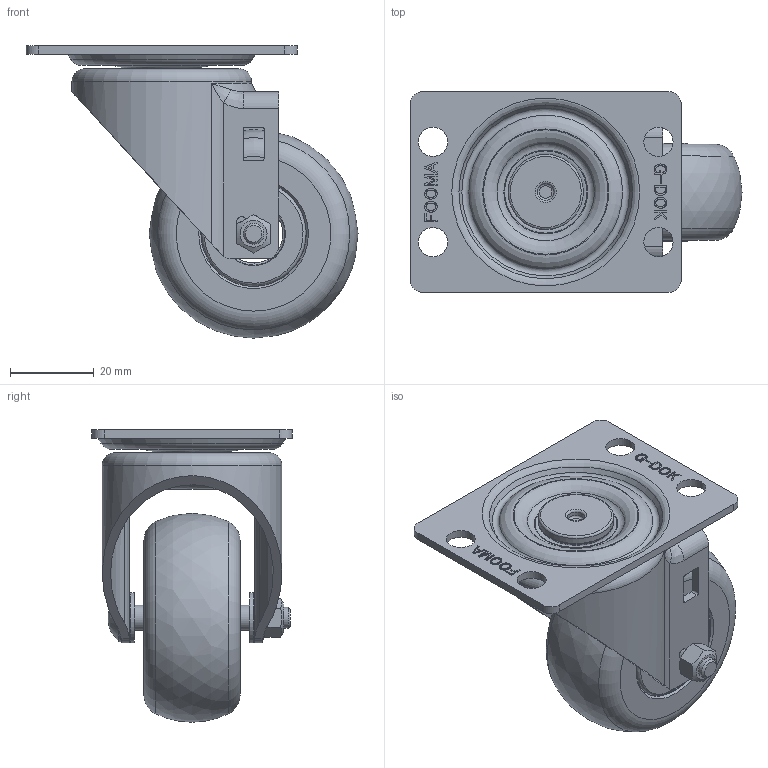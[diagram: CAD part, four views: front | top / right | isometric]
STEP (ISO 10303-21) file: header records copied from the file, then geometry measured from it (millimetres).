
FILE_DESCRIPTION(/* description */ (''),/* implementation_level */ '2;1');
FILE_NAME(/* name */ 'C:\Users\admin\Desktop\JYS\14.제품도면\GL-SERIES\GL-50-ASF-EUS-HP.stp',/* time_stamp */ '2024-01-11T14:34:05+09:00',/* author */ ('admin'),/* organization */ (''),/* preprocessor_version */ 'ST-DEVELOPER v18.1',/* originating_system */ 'Autodesk Inventor 2021',/* authorisation */ '');
FILE_SCHEMA (('AUTOMOTIVE_DESIGN { 1 0 10303 214 3 1 1 }'));
Length unit declared in the file: millimetre
Products named in the file (3): GL-50-ASF-EUS; GL-50-ASF-EUS_1; GDS-50_WHEEL_Sub Assy_Rev01
Assembly tree (2 placements, depth 2):
  GL-50-ASF-EUS
    GL-50-ASF-EUS_1
    GDS-50_WHEEL_Sub Assy_Rev01
Bounding box: 79.5 x 48 x 70 mm (x, y, z)
Volume: 57064.1 mm3; surface area: 30616.3 mm2
Topology: 3 solids, 4 shells, 427 faces, 1073 edges, 702 vertices
Faces by surface type: plane 191, bspline 114, torus 50, cylinder 49, cone 23
Full cylindrical faces by diameter (mm): 4 x1, 5 x1, 6 x1, 7 x5, 11 x1, 11.1 x1, 11.5 x1, 18 x1, 21.004 x1, 25 x2, 33.804 x1, 39 x1, 43 x1
Entity records: 14288 total; most frequent: CARTESIAN_POINT 4397, ORIENTED_EDGE 2136, DIRECTION 1750, EDGE_CURVE 1068, VERTEX_POINT 702, AXIS2_PLACEMENT_3D 604, LINE 542, VECTOR 542
